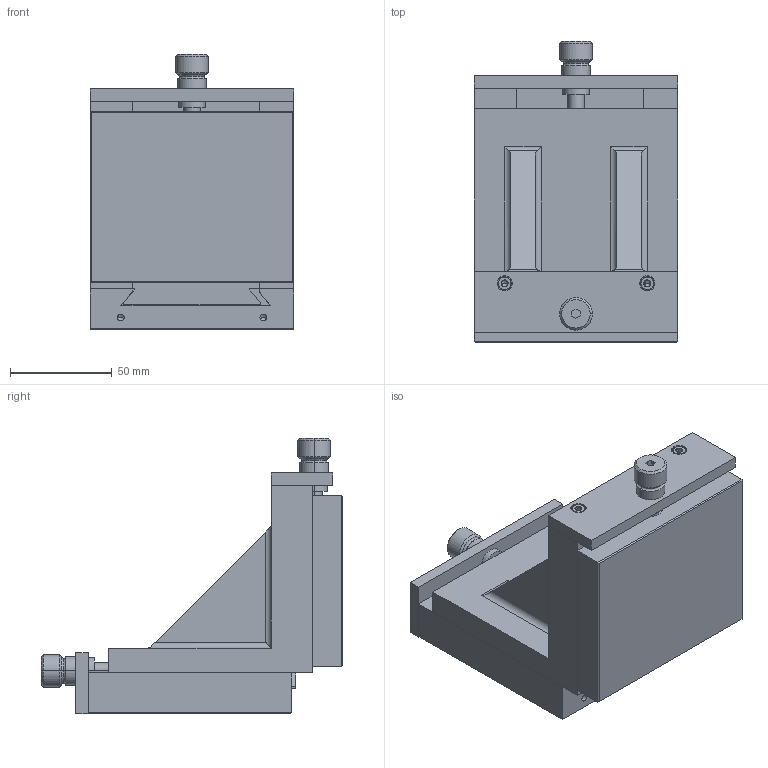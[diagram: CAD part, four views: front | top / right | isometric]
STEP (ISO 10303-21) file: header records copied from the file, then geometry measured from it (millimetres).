
FILE_DESCRIPTION((''),'2;1');
FILE_NAME('D100_ASM','2014-02-15T',('Rudolf Kaufmann'),(''),'PRO/ENGINEER BY PARAMETRIC TECHNOLOGY CORPORATION, 2006420','PRO/ENGINEER BY PARAMETRIC TECHNOLOGY CORPORATION, 2006420','');
FILE_SCHEMA(('CONFIG_CONTROL_DESIGN'));
Length unit declared in the file: millimetre
Products named in the file (9): 402_822_00_ANY; 402_825_00_STANDARD; 402_818_00_ANY; 402_813_00_ANY; 402_814_00_ANY; 402_816_00_ANY; ZYL-SCHR_D912_M4X10; A100-FRONTPLATTE_ASM; D100_ASM
Assembly tree (10 placements, depth 3):
  D100_ASM
    402_822_00_ANY
    402_825_00_STANDARD
    402_818_00_ANY
    A100-FRONTPLATTE_ASM  x2
      402_813_00_ANY
      402_814_00_ANY
      402_816_00_ANY
      ZYL-SCHR_D912_M4X10
Bounding box: 100.05 x 148 x 135.15 mm (x, y, z)
Volume: 661965.3 mm3; surface area: 141255.4 mm2
Topology: 13 solids, 17 shells, 402 faces, 965 edges, 599 vertices
Faces by surface type: plane 174, cylinder 124, cone 72, torus 32
Entity records: 7768 total; most frequent: CARTESIAN_POINT 2028, DIRECTION 1180, ORIENTED_EDGE 1120, EDGE_CURVE 561, AXIS2_PLACEMENT_3D 423, VERTEX_POINT 360, VECTOR 334, LINE 334
